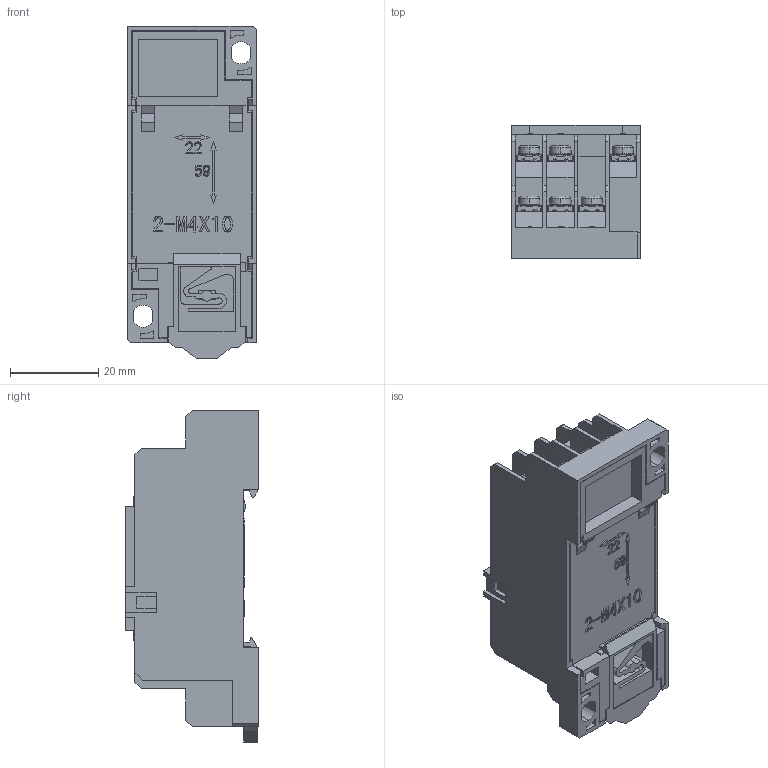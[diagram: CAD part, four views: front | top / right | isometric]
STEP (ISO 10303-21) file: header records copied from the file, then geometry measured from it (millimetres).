
FILE_DESCRIPTION (( 'STEP AP203' ), '1' );
FILE_NAME ('SYF11A 俋倛.STEP', '2023-08-02T10:39:16', ( 'admin' ), ( '' ), 'SwSTEP 2.0', 'SolidWorks 2022', '' );
FILE_SCHEMA (( 'CONFIG_CONTROL_DESIGN' ));
Products named in the file (1): SYF11A 俋倛
Bounding box: 29.2 x 30.1 x 75.27 mm (x, y, z)
Volume: 41620.1 mm3; surface area: 16882.7 mm2
Topology: 1 solids, 5 shells, 2814 faces, 7465 edges, 4701 vertices
Faces by surface type: plane 1189, bspline 675, cylinder 514, torus 198, cone 150, sphere 88
Entity records: 108430 total; most frequent: CARTESIAN_POINT 44661, ORIENTED_EDGE 14798, DIRECTION 11212, EDGE_CURVE 7399, VERTEX_POINT 4701, AXIS2_PLACEMENT_3D 3804, LINE 3604, VECTOR 3604
